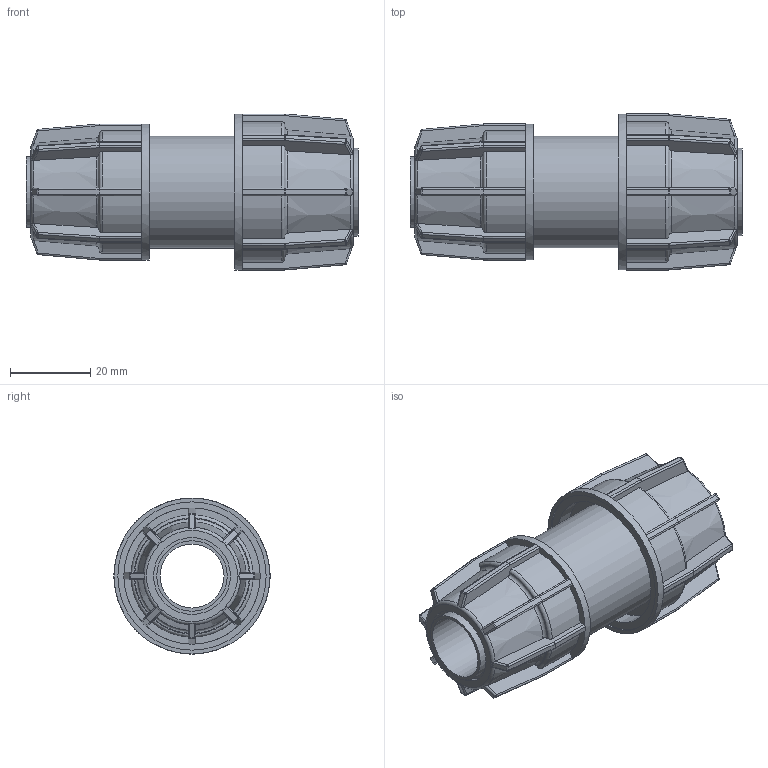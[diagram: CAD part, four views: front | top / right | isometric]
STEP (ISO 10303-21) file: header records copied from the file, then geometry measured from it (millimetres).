
FILE_DESCRIPTION(/* description */ ('PLASSON IRRIFIT REDUCER 20-16'),/* implementation_level */ '2;1');
FILE_NAME(/* name */ 'C:\Dropbox\KIMPROJECTS-Inventor\99-16-3568-Processing\Silver+MF ISRAEL\041107\041107020016.ipt.stp',/* time_stamp */ '2018-04-09T12:59:47+03:00',/* author */ ('KIM'),/* organization */ (''),/* preprocessor_version */ 'ST-DEVELOPER v15.6',/* originating_system */ 'Autodesk Inventor 2015',/* authorisation */ '');
FILE_SCHEMA (('AUTOMOTIVE_DESIGN { 1 0 10303 214 3 1 1 }'));
Length unit declared in the file: millimetre
Products named in the file (1): 041107020016
Bounding box: 83 x 39 x 39 mm (x, y, z)
Volume: 38268.9 mm3; surface area: 17823.7 mm2
Topology: 2 solids, 2 shells, 499 faces, 1196 edges, 695 vertices
Faces by surface type: plane 253, cylinder 147, sphere 48, torus 35, cone 16
Full cylindrical faces by diameter (mm): 16 x1, 17.6 x1, 19.2 x1, 20 x1, 22 x1, 24 x1, 28 x1, 33.15 x1, 34 x1, 37.05 x1, 39 x1
Entity records: 14920 total; most frequent: CARTESIAN_POINT 3977, ORIENTED_EDGE 2296, DIRECTION 2274, EDGE_CURVE 1148, AXIS2_PLACEMENT_3D 901, VERTEX_POINT 676, EDGE_LOOP 520, FACE_OUTER_BOUND 496
